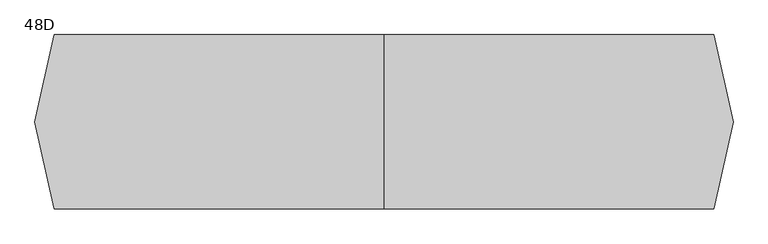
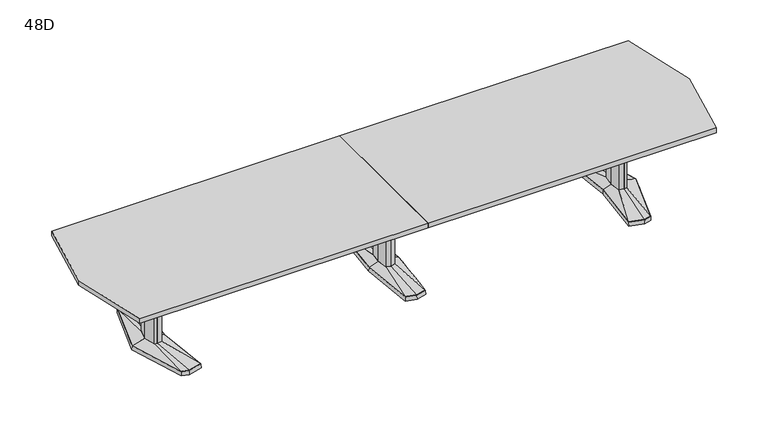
"""IFC4 building model written with IfcOpenShell, lengths in millimetres: furniture geometry, Coalesse_AM_Table_Conference_ETable2_Faceted_16ft_AluminiumBase : 48D."""

import ifcopenshell
import ifcopenshell.guid

model = None  # the IFC model being written
_history = None  # IfcOwnerHistory: only IFC2X3 demands one
_inside = {}  # id of a spatial element -> (the spatial element, [elements in it])
_under = {}  # id of a project, library or spatial element -> (it, [spatial elements below it])
_declared = {}  # id of a project -> (the project, [libraries it declares])
_typed = {}  # id of a type object -> (the type object, [elements of that type])
_made_of = {}  # id of a material, layer set ... -> (it, [elements and type objects made of it])


def new_model(schema):
    """Start an empty IFC model of exactly this schema.

    Asked for "IFC4X3", IfcOpenShell would pick the latest addendum, in which some entities
    have other attributes; the version numbers below select the first issue.
    IFC2X3 requires an IfcOwnerHistory on every rooted entity: one is made here for all.
    """
    global model, _history
    if schema == "IFC4X3":
        model = ifcopenshell.file(schema_version=(4, 3, 0, 0))
    else:
        model = ifcopenshell.file(schema=schema)
    _inside.clear()
    _under.clear()
    _declared.clear()
    _typed.clear()
    _made_of.clear()
    _history = None
    if model.schema == "IFC2X3":
        org = make("IfcOrganization", Name="unknown")
        user = make(
            "IfcPersonAndOrganization",
            ThePerson=make("IfcPerson", FamilyName="unknown"),
            TheOrganization=org,
        )
        app = make(
            "IfcApplication",
            ApplicationDeveloper=org,
            Version="unknown",
            ApplicationFullName="unknown",
            ApplicationIdentifier="unknown",
        )
        _history = make(
            "IfcOwnerHistory",
            OwningUser=user,
            OwningApplication=app,
            ChangeAction="ADDED",
            CreationDate=0,
        )
    return model


def make(cls, **values):
    """One entity of the class cls with the attributes given. An attribute that is None is left unset."""
    return model.create_entity(
        cls, **{name: value for name, value in values.items() if value is not None}
    )


def rooted(cls, **values):
    """An entity with a GlobalId (a new one), such as an element, a storey or a relation."""
    return make(cls, GlobalId=ifcopenshell.guid.new(), OwnerHistory=_history, **values)


def si_unit(unit_type, name, prefix=None):
    """IfcSIUnit, for example si_unit("LENGTHUNIT", "METRE", prefix="MILLI")."""
    return make("IfcSIUnit", UnitType=unit_type, Prefix=prefix, Name=name)


def assignment(units):
    """IfcUnitAssignment: the units of a project."""
    return None if units is None else make("IfcUnitAssignment", Units=units)


def point(xyz):
    """IfcCartesianPoint."""
    return None if xyz is None else make("IfcCartesianPoint", Coordinates=xyz)


def direction(xyz):
    """IfcDirection."""
    return None if xyz is None else make("IfcDirection", DirectionRatios=xyz)


def frame(location, z_axis=None, x_axis=None):
    """IfcAxis2Placement3D, a coordinate frame: its origin and axes. An axis left out is left unset."""
    return make(
        "IfcAxis2Placement3D",
        Location=point(location),
        Axis=direction(z_axis),
        RefDirection=direction(x_axis),
    )


def origin():
    """The frame at (0, 0, 0) with its axes left unset."""
    return frame((0.0, 0.0, 0.0))


def place(relative_to, where):
    """IfcLocalPlacement: puts the frame where relative to a parent placement (None: the world)."""
    return make(
        "IfcLocalPlacement", PlacementRelTo=relative_to, RelativePlacement=where
    )


def context(
    kind, dimensions, precision=None, world=None, true_north=None, identifier=None
):
    """IfcGeometricRepresentationContext, for example the 3D "Model" context."""
    return make(
        "IfcGeometricRepresentationContext",
        ContextIdentifier=identifier,
        ContextType=kind,
        CoordinateSpaceDimension=dimensions,
        Precision=precision,
        WorldCoordinateSystem=world,
        TrueNorth=true_north,
    )


def project(units=None, contexts=None):
    """IfcProject with its units and contexts."""
    return rooted(
        "IfcProject",
        Name="project",
        RepresentationContexts=contexts,
        UnitsInContext=assignment(units),
    )


def spatial(cls, under=None, at=None, **own):
    """A site, building, storey or space (cls), placed at a placement, below another one or the project."""
    s = rooted(cls, ObjectPlacement=at, **own)
    if under is not None:
        _under.setdefault(under.id(), (under, []))[1].append(s)
    return s


def polyline(points):
    """IfcPolyline through the points."""
    return make("IfcPolyline", Points=[point(p) for p in points])


def outline(outer, holes=None, kind="AREA"):
    """IfcArbitraryClosedProfileDef: a profile drawn as a closed curve; with holes, ...WithVoids."""
    if holes is None:
        return make("IfcArbitraryClosedProfileDef", ProfileType=kind, OuterCurve=outer)
    return make(
        "IfcArbitraryProfileDefWithVoids",
        ProfileType=kind,
        OuterCurve=outer,
        InnerCurves=holes,
    )


def extrude(swept, where, along, depth):
    """IfcExtrudedAreaSolid: the profile swept, set in the frame where, extruded along a direction by depth."""
    return make(
        "IfcExtrudedAreaSolid",
        SweptArea=swept,
        Position=where,
        ExtrudedDirection=direction(along),
        Depth=depth,
    )


def faces_of(points, faces, orient=None, outer=None):
    """IfcFace entities. A face is a list of loops; a loop is a list of indices into points, from 0.

    orient and outer hold one flag for each loop. By default every Orientation is true, the
    first loop of a face is its IfcFaceOuterBound and the others are IfcFaceBound.
    """
    made = []
    for i, loops in enumerate(faces):
        bounds = []
        for j, loop in enumerate(loops):
            is_outer = j == 0 if outer is None else outer[i][j]
            bounds.append(
                make(
                    "IfcFaceOuterBound" if is_outer else "IfcFaceBound",
                    Bound=make("IfcPolyLoop", Polygon=[points[k] for k in loop]),
                    Orientation=True if orient is None else orient[i][j],
                )
            )
        made.append(make("IfcFace", Bounds=bounds))
    return made


def faceted_brep(points, faces, orient=None, outer=None, voids=None):
    """IfcFacetedBrep: a solid bounded by flat faces; with voids (closed shells), ...WithVoids."""
    shared = [point(p) for p in points]
    hull = make("IfcClosedShell", CfsFaces=faces_of(shared, faces, orient, outer))
    if voids is None:
        return make("IfcFacetedBrep", Outer=hull)
    return make(
        "IfcFacetedBrepWithVoids",
        Outer=hull,
        Voids=[
            make(cls, CfsFaces=faces_of(shared, fs, o, b)) for cls, fs, o, b in voids
        ],
    )


def shape(context_of_items, identifier, shape_type, items):
    """IfcShapeRepresentation: the items that make up one representation, for example the "Body"."""
    return make(
        "IfcShapeRepresentation",
        ContextOfItems=context_of_items,
        RepresentationIdentifier=identifier,
        RepresentationType=shape_type,
        Items=items,
    )


def source(mapping_origin, context_of_items, identifier, shape_type, items):
    """IfcRepresentationMap: a shape defined once, which mapped items show again and again."""
    return make(
        "IfcRepresentationMap",
        MappingOrigin=mapping_origin,
        MappedRepresentation=shape(context_of_items, identifier, shape_type, items),
    )


def transform(
    local_origin,
    x_axis=None,
    y_axis=None,
    z_axis=None,
    scale=None,
    scale2=None,
    scale3=None,
    uniform=True,
):
    """IfcCartesianTransformationOperator3D, or its non-uniform kind. x_axis, y_axis, z_axis: its Axis1, 2, 3."""
    if uniform:
        return make(
            "IfcCartesianTransformationOperator3D",
            Axis1=direction(x_axis),
            Axis2=direction(y_axis),
            LocalOrigin=point(local_origin),
            Scale=scale,
            Axis3=direction(z_axis),
        )
    return make(
        "IfcCartesianTransformationOperator3DnonUniform",
        Axis1=direction(x_axis),
        Axis2=direction(y_axis),
        LocalOrigin=point(local_origin),
        Scale=scale,
        Axis3=direction(z_axis),
        Scale2=scale2,
        Scale3=scale3,
    )


def mapped(mapping_source, mapping_target):
    """IfcMappedItem: shows the shape of a source again, moved by a transform."""
    return make(
        "IfcMappedItem", MappingSource=mapping_source, MappingTarget=mapping_target
    )


def made_of(thing, what):
    """Note that an element or type object is made of a material, layer set ...; save() writes the relation."""
    if what is not None:
        _made_of.setdefault(what.id(), (what, []))[1].append(thing)
    return thing


def element(
    cls,
    number,
    at=None,
    inside=None,
    cuts=None,
    type_object=None,
    material=None,
    context=None,
    identifier="Body",
    shape_type=None,
    held_by="IfcProductDefinitionShape",
    body=None,
    shapes=None,
    **own,
):
    """One element of the class cls, such as IfcWall. Its Tag is "e" and its number.

    at: its placement. inside: the storey or other place that contains it. cuts: it is an
    opening in that element (IfcRelVoidsElement). A single representation is given by context,
    identifier, shape_type and body (its items); several are given by shapes. held_by: the class
    of the entity that holds the representations. save() writes the other relations.
    """
    e = rooted(cls, Tag="e%d" % number, ObjectPlacement=at, **own)
    if body is not None:
        shapes = [shape(context, identifier, shape_type, body)]
    if shapes is not None:
        e.Representation = make(held_by, Representations=shapes)
    if inside is not None:
        _inside.setdefault(inside.id(), (inside, []))[1].append(e)
    if cuts is not None:
        rooted(
            "IfcRelVoidsElement", RelatingBuildingElement=cuts, RelatedOpeningElement=e
        )
    if type_object is not None:
        _typed.setdefault(type_object.id(), (type_object, []))[1].append(e)
    return made_of(e, material)


def aggregate(whole, parts):
    """IfcRelAggregates: a whole, such as a stair, and the parts it consists of."""
    return rooted("IfcRelAggregates", RelatingObject=whole, RelatedObjects=parts)


def save(model, path):
    """Write the relations noted so far, then the file.

    IfcRelAggregates (storeys below a building ...), IfcRelContainedInSpatialStructure (elements
    in a storey), IfcRelDefinesByType, IfcRelAssociatesMaterial and IfcRelDeclares: one each for
    every whole, place, type object, material and project.
    """
    for whole, parts in _under.values():
        aggregate(whole, parts)
    for where, things in _inside.values():
        rooted(
            "IfcRelContainedInSpatialStructure",
            RelatedElements=things,
            RelatingStructure=where,
        )
    for kind, things in _typed.values():
        rooted("IfcRelDefinesByType", RelatedObjects=things, RelatingType=kind)
    for what, things in _made_of.values():
        rooted("IfcRelAssociatesMaterial", RelatedObjects=things, RelatingMaterial=what)
    for by, libraries in _declared.values():
        rooted("IfcRelDeclares", RelatingContext=by, RelatedDefinitions=libraries)
    model.write(path)


def plane_surface(at):
    """IfcPlane: the flat surface through the origin of the frame at, square to its z axis."""
    return make("IfcPlane", Position=at)


def spline_surface(u_degree, v_degree, points, u_multiplicities, v_multiplicities, u_knots, v_knots, weights=None):
    """IfcBSplineSurfaceWithKnots; with weights, IfcRationalBSplineSurfaceWithKnots. points: one row for each step in u."""
    own = dict(
        UDegree=u_degree,
        VDegree=v_degree,
        ControlPointsList=[[point(p) for p in row] for row in points],
        SurfaceForm="UNSPECIFIED",
        UClosed=False,
        VClosed=False,
        SelfIntersect=False,
        UMultiplicities=u_multiplicities,
        VMultiplicities=v_multiplicities,
        UKnots=u_knots,
        VKnots=v_knots,
        KnotSpec="UNSPECIFIED",
    )
    if weights is None:
        return make("IfcBSplineSurfaceWithKnots", **own)
    return make("IfcRationalBSplineSurfaceWithKnots", WeightsData=weights, **own)


def advanced_brep(points, edges, surfaces, faces):
    """IfcAdvancedBrep: a solid bounded by faces that lie on surfaces and meet in shared edges.

    An edge is (start, end): straight between two places in points (the first is 0);
    or (start, end, curve); or (start, end, curve, False) where it runs against its curve.
    A face is (place in surfaces, loops), or (place, loops, False) where it looks against
    its surface's normal. A loop lists edges by number (the first is 1), with a minus sign
    where the edge is run from its end to its start. The first loop is the outer one.
    """
    corners = [point(p) for p in points]
    vertices = [make("IfcVertexPoint", VertexGeometry=c) for c in corners]
    made = []
    for start, end, *more in edges:
        made.append(
            make(
                "IfcEdgeCurve",
                EdgeStart=vertices[start],
                EdgeEnd=vertices[end],
                EdgeGeometry=more[0] if more else make("IfcPolyline", Points=[corners[start], corners[end]]),
                SameSense=more[1] if len(more) > 1 else True,
            )
        )
    hull = []
    for where, loops, *sense in faces:
        bounds = []
        for j, loop in enumerate(loops):
            ring = [make("IfcOrientedEdge", EdgeElement=made[abs(k) - 1], Orientation=k > 0) for k in loop]
            bounds.append(
                make(
                    "IfcFaceOuterBound" if j == 0 else "IfcFaceBound",
                    Bound=make("IfcEdgeLoop", EdgeList=ring),
                    Orientation=True,
                )
            )
        hull.append(make("IfcAdvancedFace", Bounds=bounds, FaceSurface=surfaces[where], SameSense=sense[0] if sense else True))
    return make("IfcAdvancedBrep", Outer=make("IfcClosedShell", CfsFaces=hull))


def furniture_48d_5b8af901(model_context):
    return source(origin(), model_context, "Body", "SolidModel", [
        faceted_brep([(-81.2333791, -433.8053819, 38.1), (0.0, -455.556576, 38.1), (81.2333791, -433.8053819, 38.1), (119.0564774, 0.0, 38.1), (81.2333791, 433.8053819, 38.1), (0.0, 455.556576, 38.1), (-81.2333791, 433.8053819, 38.1), (-119.0564774, 0.0, 38.1), (-82.7182795, -435.0512063, 3.175), (-120.65, 0.0, 3.175), (-82.7182795, 435.0512063, 3.175), (0.0, 457.2, 3.175), (82.7182795, 435.0512063, 3.175), (120.65, 0.0, 3.175), (82.7182795, -435.0512063, 3.175), (0.0, -457.2, 3.175), (0.0, 429.2617927, 3.175), (-77.9676806, 408.3850278, 3.175), (-74.7019821, 382.9646737, 3.175), (0.0, 402.9670094, 3.175), (74.7019821, 382.9646737, 3.175), (77.9676806, 408.3850278, 3.175), (0.0, -429.2617927, 3.175), (77.9676806, -408.3850278, 3.175), (74.7019821, -382.9646737, 3.175), (0.0, -402.9670094, 3.175), (-74.7019821, -382.9646737, 3.175), (-77.9676806, -408.3850278, 3.175), (-71.8574262, 114.6326257, 3.175), (-82.5426076, 0.0, 3.175), (-71.8574262, -114.6326257, 3.175), (0.0, -133.8761372, 3.175), (71.8574262, -114.6326257, 3.175), (82.5426076, 0.0, 3.175), (71.8574262, 114.6326257, 3.175), (0.0, 133.8761372, 3.175), (0.0, 429.2617927, 0.0), (77.9676806, 408.3850278, 0.0), (74.7019821, 382.9646737, 0.0), (0.0, 402.9670094, 0.0), (-74.7019821, 382.9646737, 0.0), (-77.9676806, 408.3850278, 0.0), (0.0, -429.2617927, 0.0), (-77.9676806, -408.3850278, 0.0), (-74.7019821, -382.9646737, 0.0), (0.0, -402.9670094, 0.0), (74.7019821, -382.9646737, 0.0), (77.9676806, -408.3850278, 0.0), (-71.8574262, 114.6326257, 0.0), (0.0, 133.8761372, 0.0), (71.8574262, 114.6326257, 0.0), (82.5426076, 0.0, 0.0), (71.8574262, -114.6326257, 0.0), (0.0, -133.8761372, 0.0), (-71.8574262, -114.6326257, 0.0), (-82.5426076, 0.0, 0.0)], [[[0, 1, 2, 3, 4, 5, 6, 7]], [[8, 9, 10, 11, 12, 13, 14, 15], [16, 17, 18, 19, 20, 21], [22, 23, 24, 25, 26, 27], [28, 29, 30, 31, 32, 33, 34, 35]], [[1, 0, 8, 15]], [[2, 1, 15, 14]], [[3, 2, 14, 13]], [[4, 3, 13, 12]], [[5, 4, 12, 11]], [[6, 5, 11, 10]], [[7, 6, 10, 9]], [[0, 7, 9, 8]], [[36, 37, 38, 39, 40, 41]], [[42, 43, 44, 45, 46, 47]], [[48, 49, 50, 51, 52, 53, 54, 55]], [[36, 41, 17, 16]], [[41, 40, 18, 17]], [[40, 39, 19, 18]], [[39, 38, 20, 19]], [[38, 37, 21, 20]], [[37, 36, 16, 21]], [[42, 47, 23, 22]], [[47, 46, 24, 23]], [[46, 45, 25, 24]], [[45, 44, 26, 25]], [[44, 43, 27, 26]], [[43, 42, 22, 27]], [[48, 55, 29, 28]], [[55, 54, 30, 29]], [[54, 53, 31, 30]], [[53, 52, 32, 31]], [[52, 51, 33, 32]], [[51, 50, 34, 33]], [[50, 49, 35, 34]], [[49, 48, 28, 35]]]),
        faceted_brep([(-36.3832834, 84.6900825, 698.5), (-44.2774487, 0.0, 698.5), (-36.3832834, -84.6900825, 698.5), (0.0, -94.4335728, 698.5), (36.3832834, -84.6900825, 698.5), (44.2774487, 0.0, 698.5), (36.3832834, 84.6900825, 698.5), (0.0, 94.4335728, 698.5), (-36.3832834, 84.6900825, 63.5), (0.0, 94.4335728, 63.5), (36.3832834, 84.6900825, 63.5), (44.2774487, 0.0, 63.5), (36.3832834, -84.6900825, 63.5), (0.0, -94.4335728, 63.5), (-36.3832834, -84.6900825, 63.5), (-44.2774487, 0.0, 63.5)], [[[0, 1, 2, 3, 4, 5, 6, 7]], [[8, 9, 10, 11, 12, 13, 14, 15]], [[1, 0, 8, 15]], [[2, 1, 15, 14]], [[3, 2, 14, 13]], [[4, 3, 13, 12]], [[5, 4, 12, 11]], [[6, 5, 11, 10]], [[7, 6, 10, 9]], [[0, 7, 9, 8]]]),
        advanced_brep(
        [(-36.3832834, 84.6900825, 63.5), (-44.2774487, 0.0, 63.5), (-36.3832834, -84.6900825, 63.5), (0.0, -94.4335728, 63.5), (36.3832834, -84.6900825, 63.5), (44.2774487, 0.0, 63.5), (36.3832834, 84.6900825, 63.5), (0.0, 94.4335728, 63.5), (-81.2333791, 433.8053819, 38.1), (0.0, 455.556576, 38.1), (81.2333791, 433.8053819, 38.1), (119.0564774, 0.0, 38.1), (81.2333791, -433.8053819, 38.1), (0.0, -455.556576, 38.1), (-81.2333791, -433.8053819, 38.1), (-119.0564774, 0.0, 38.1)],
        [
            (0, 1),
            (1, 2),
            (2, 3),
            (3, 4),
            (4, 5),
            (5, 6),
            (6, 7),
            (7, 0),
            (8, 9),
            (9, 10),
            (10, 11),
            (11, 12),
            (12, 13),
            (13, 14),
            (14, 15),
            (15, 8),
            (15, 1),
            (0, 8),
            (14, 2),
            (13, 3),
            (12, 4),
            (11, 5),
            (10, 6),
            (9, 7),
        ],
        [
            plane_surface(frame((0.0, 0.0, 63.5), z_axis=(0.0, 0.0, 1.0000000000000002), x_axis=(-0.9659615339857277, -0.25868574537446, 0.0))),
            plane_surface(frame((0.0, 0.0, 38.1), z_axis=(0.0, 0.0, -1.0000000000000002), x_axis=(-0.9659615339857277, -0.25868574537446, 0.0))),
            spline_surface(1, 1, [[(-81.2333791, 433.8053819, 38.1), (-36.3832834, 84.6900825, 63.5)], [(-119.0564774, 0.0, 38.1), (-44.2774487, 0.0, 63.5)]], [2, 2], [2, 2], [0.0, 1.0], [0.0, 1.0]),
            spline_surface(1, 1, [[(-119.0564774, 0.0, 38.1), (-44.2774487, 0.0, 63.5)], [(-81.2333791, -433.8053819, 38.1), (-36.3832834, -84.6900825, 63.5)]], [2, 2], [2, 2], [0.0, 1.0], [0.0, 1.0]),
            spline_surface(1, 1, [[(-81.2333791, -433.8053819, 38.1), (-36.3832834, -84.6900825, 63.5)], [(0.0, -455.556576, 38.1), (0.0, -94.4335728, 63.5)]], [2, 2], [2, 2], [0.0, 1.0], [0.0, 1.0]),
            spline_surface(1, 1, [[(0.0, -455.556576, 38.1), (0.0, -94.4335728, 63.5)], [(81.2333791, -433.8053819, 38.1), (36.3832834, -84.6900825, 63.5)]], [2, 2], [2, 2], [0.0, 1.0], [0.0, 1.0]),
            spline_surface(1, 1, [[(81.2333791, -433.8053819, 38.1), (36.3832834, -84.6900825, 63.5)], [(119.0564774, 0.0, 38.1), (44.2774487, 0.0, 63.5)]], [2, 2], [2, 2], [0.0, 1.0], [0.0, 1.0]),
            spline_surface(1, 1, [[(119.0564774, 0.0, 38.1), (44.2774487, 0.0, 63.5)], [(81.2333791, 433.8053819, 38.1), (36.3832834, 84.6900825, 63.5)]], [2, 2], [2, 2], [0.0, 1.0], [0.0, 1.0]),
            spline_surface(1, 1, [[(81.2333791, 433.8053819, 38.1), (36.3832834, 84.6900825, 63.5)], [(0.0, 455.556576, 38.1), (0.0, 94.4335728, 63.5)]], [2, 2], [2, 2], [0.0, 1.0], [0.0, 1.0]),
            spline_surface(1, 1, [[(0.0, 455.556576, 38.1), (0.0, 94.4335728, 63.5)], [(-81.2333791, 433.8053819, 38.1), (-36.3832834, 84.6900825, 63.5)]], [2, 2], [2, 2], [0.0, 1.0], [0.0, 1.0]),
        ],
        [
            (0, [[1, 2, 3, 4, 5, 6, 7, 8]]),
            (1, [[9, 10, 11, 12, 13, 14, 15, 16]]),
            (2, [[-16, 17, -1, 18]]),
            (3, [[-15, 19, -2, -17]]),
            (4, [[-14, 20, -3, -19]]),
            (5, [[-13, 21, -4, -20]]),
            (6, [[-12, 22, -5, -21]]),
            (7, [[-11, 23, -6, -22]]),
            (8, [[-10, 24, -7, -23]]),
            (9, [[-9, -18, -8, -24]]),
        ],
    ),
        faceted_brep([(1820.2306835, 455.5848221, 38.1), (1710.6531277, 426.2263816, 38.1), (1751.8163717, 0.0, 38.1), (1710.6531277, -426.2263816, 38.1), (1820.2306835, -455.5848221, 38.1), (1876.3570396, -440.5478297, 38.1), (2013.6684269, 0.0, 38.1), (1876.3570396, 440.5478297, 38.1), (1820.2306754, 457.2283104, 3.175), (1877.6124472, 441.8549756, 3.175), (2015.33125, 0.0, 3.175), (1877.6124472, -441.8549756, 3.175), (1820.2306754, -457.2283104, 3.175), (1708.94375, -427.4118891, 3.175), (1750.2214856, 0.0, 3.175), (1708.94375, 427.4118891, 3.175), (1823.820115, 428.3273875, 3.175), (1718.7718228, 402.1057253, 3.175), (1726.890518, 377.985069, 3.175), (1827.4095466, 401.0699529, 3.175), (1877.9691725, 387.524361, 3.175), (1877.1631061, 414.0360954, 3.175), (1823.820115, -428.3273875, 3.175), (1877.1631061, -414.0360954, 3.175), (1877.9691725, -387.524361, 3.175), (1827.4095466, -401.0699529, 3.175), (1726.890518, -377.985069, 3.175), (1718.7718228, -402.1057253, 3.175), (1950.4153621, 0.0, 3.175), (1918.1459611, 120.4193755, 3.175), (1869.4987222, 133.471665, 3.175), (1789.6180526, 119.4176561, 3.175), (1778.4868466, 0.0, 3.175), (1789.6180526, -119.4176561, 3.175), (1869.4987222, -133.471665, 3.175), (1918.1459611, -120.4193755, 3.175), (1823.820115, 428.3273875, 0.0), (1877.1631061, 414.0360954, 0.0), (1877.9691725, 387.524361, 0.0), (1827.4095466, 401.0699529, 0.0), (1726.890518, 377.985069, 0.0), (1718.7718228, 402.1057253, 0.0), (1823.820115, -428.3273875, 0.0), (1718.7718228, -402.1057253, 0.0), (1726.890518, -377.985069, 0.0), (1827.4095466, -401.0699529, 0.0), (1877.9691725, -387.524361, 0.0), (1877.1631061, -414.0360954, 0.0), (1950.4153621, 0.0, 0.0), (1918.1459611, -120.4193755, 0.0), (1869.4987222, -133.471665, 0.0), (1789.6180526, -119.4176561, 0.0), (1778.4868466, 0.0, 0.0), (1789.6180526, 119.4176561, 0.0), (1869.4987222, 133.471665, 0.0), (1918.1459611, 120.4193755, 0.0)], [[[0, 1, 2, 3, 4, 5, 6, 7]], [[8, 9, 10, 11, 12, 13, 14, 15], [16, 17, 18, 19, 20, 21], [22, 23, 24, 25, 26, 27], [28, 29, 30, 31, 32, 33, 34, 35]], [[7, 9, 8, 0]], [[6, 10, 9, 7]], [[5, 11, 10, 6]], [[4, 12, 11, 5]], [[3, 13, 12, 4]], [[2, 14, 13, 3]], [[1, 15, 14, 2]], [[0, 8, 15, 1]], [[36, 37, 38, 39, 40, 41]], [[42, 43, 44, 45, 46, 47]], [[48, 49, 50, 51, 52, 53, 54, 55]], [[36, 16, 21, 37]], [[37, 21, 20, 38]], [[38, 20, 19, 39]], [[39, 19, 18, 40]], [[40, 18, 17, 41]], [[41, 17, 16, 36]], [[42, 22, 27, 43]], [[43, 27, 26, 44]], [[44, 26, 25, 45]], [[45, 25, 24, 46]], [[46, 24, 23, 47]], [[47, 23, 22, 42]], [[48, 28, 35, 49]], [[49, 35, 34, 50]], [[50, 34, 33, 51]], [[51, 33, 32, 52]], [[52, 32, 31, 53]], [[53, 31, 30, 54]], [[54, 30, 29, 55]], [[55, 29, 28, 48]]]),
        faceted_brep([(1910.9710836, 0.0, 698.5), (1887.0358546, 89.3188359, 698.5), (1870.1824984, 93.8406728, 698.5), (1867.7826511, 94.4845635, 698.5), (1824.855146, 86.9320037, 698.5), (1816.7520056, 0.0, 698.5), (1824.855146, -86.9320037, 698.5), (1867.7826511, -94.4845635, 698.5), (1870.1824984, -93.8406728, 698.5), (1887.0358546, -89.3188359, 698.5), (1910.9710836, 0.0, 63.5), (1887.0358546, -89.3188359, 63.5), (1870.1824984, -93.8406728, 63.5), (1867.7826511, -94.4845635, 63.5), (1824.855146, -86.9320037, 63.5), (1816.7520056, 0.0, 63.5), (1824.855146, 86.9320037, 63.5), (1867.7826511, 94.4845635, 63.5), (1870.1824984, 93.8406728, 63.5), (1887.0358546, 89.3188359, 63.5)], [[[0, 1, 2, 3, 4, 5, 6, 7, 8, 9]], [[10, 11, 12, 13, 14, 15, 16, 17, 18, 19]], [[9, 11, 10, 0]], [[8, 12, 11, 9]], [[7, 13, 12, 8]], [[6, 14, 13, 7]], [[5, 15, 14, 6]], [[4, 16, 15, 5]], [[3, 17, 16, 4]], [[2, 18, 17, 3]], [[1, 19, 18, 2]], [[0, 10, 19, 1]]]),
        advanced_brep(
        [(1867.7826511, 94.4845635, 63.5), (1824.855146, 86.9320037, 63.5), (1816.7520056, 0.0, 63.5), (1824.855146, -86.9320037, 63.5), (1867.7826511, -94.4845635, 63.5), (1887.0358546, -89.3188359, 63.5), (1910.9710836, 0.0, 63.5), (1887.0358546, 89.3188359, 63.5), (1820.2306835, 455.5848221, 38.1), (1876.3570396, 440.5478297, 38.1), (2013.6684269, 0.0, 38.1), (1876.3570396, -440.5478297, 38.1), (1820.2306835, -455.5848221, 38.1), (1710.6531277, -426.2263816, 38.1), (1751.8163717, 0.0, 38.1), (1710.6531277, 426.2263816, 38.1)],
        [
            (0, 1),
            (1, 2),
            (2, 3),
            (3, 4),
            (4, 5),
            (5, 6),
            (6, 7),
            (7, 0),
            (8, 9),
            (9, 10),
            (10, 11),
            (11, 12),
            (12, 13),
            (13, 14),
            (14, 15),
            (15, 8),
            (8, 0),
            (7, 9),
            (6, 10),
            (5, 11),
            (4, 12),
            (3, 13),
            (2, 14),
            (1, 15),
        ],
        [
            plane_surface(frame((1860.8837991, 0.0, 63.5), z_axis=(0.0, 0.0, 1.0), x_axis=(-0.25884244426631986, -0.9659195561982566, 0.0))),
            plane_surface(frame((1822.4958125, 0.0, 38.1), z_axis=(0.0, 0.0, -1.0), x_axis=(-0.25884244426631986, -0.9659195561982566, 0.0))),
            spline_surface(1, 1, [[(1820.2306835, 455.5848221, 38.1), (1876.3570396, 440.5478297, 38.1)], [(1867.7826511, 94.4845635, 63.5), (1887.0358546, 89.3188359, 63.5)]], [2, 2], [2, 2], [0.0, 1.0], [0.0, 1.0]),
            spline_surface(1, 1, [[(1876.3570396, 440.5478297, 38.1), (2013.6684269, 0.0, 38.1)], [(1887.0358546, 89.3188359, 63.5), (1910.9710836, 0.0, 63.5)]], [2, 2], [2, 2], [0.0, 1.0], [0.0, 1.0]),
            spline_surface(1, 1, [[(2013.6684269, 0.0, 38.1), (1876.3570396, -440.5478297, 38.1)], [(1910.9710836, 0.0, 63.5), (1887.0358546, -89.3188359, 63.5)]], [2, 2], [2, 2], [0.0, 1.0], [0.0, 1.0]),
            spline_surface(1, 1, [[(1876.3570396, -440.5478297, 38.1), (1820.2306835, -455.5848221, 38.1)], [(1887.0358546, -89.3188359, 63.5), (1867.7826511, -94.4845635, 63.5)]], [2, 2], [2, 2], [0.0, 1.0], [0.0, 1.0]),
            spline_surface(1, 1, [[(1820.2306835, -455.5848221, 38.1), (1710.6531277, -426.2263816, 38.1)], [(1867.7826511, -94.4845635, 63.5), (1824.855146, -86.9320037, 63.5)]], [2, 2], [2, 2], [0.0, 1.0], [0.0, 1.0]),
            spline_surface(1, 1, [[(1710.6531277, -426.2263816, 38.1), (1751.8163717, 0.0, 38.1)], [(1824.855146, -86.9320037, 63.5), (1816.7520056, 0.0, 63.5)]], [2, 2], [2, 2], [0.0, 1.0], [0.0, 1.0]),
            spline_surface(1, 1, [[(1751.8163717, 0.0, 38.1), (1710.6531277, 426.2263816, 38.1)], [(1816.7520056, 0.0, 63.5), (1824.855146, 86.9320037, 63.5)]], [2, 2], [2, 2], [0.0, 1.0], [0.0, 1.0]),
            spline_surface(1, 1, [[(1710.6531277, 426.2263816, 38.1), (1820.2306835, 455.5848221, 38.1)], [(1824.855146, 86.9320037, 63.5), (1867.7826511, 94.4845635, 63.5)]], [2, 2], [2, 2], [0.0, 1.0], [0.0, 1.0]),
        ],
        [
            (0, [[1, 2, 3, 4, 5, 6, 7, 8]]),
            (1, [[9, 10, 11, 12, 13, 14, 15, 16]]),
            (2, [[17, -8, 18, -9]]),
            (3, [[-18, -7, 19, -10]]),
            (4, [[-19, -6, 20, -11]]),
            (5, [[-20, -5, 21, -12]]),
            (6, [[-21, -4, 22, -13]]),
            (7, [[-22, -3, 23, -14]]),
            (8, [[-23, -2, 24, -15]]),
            (9, [[-24, -1, -17, -16]]),
        ],
    ),
        faceted_brep([(-1820.2306835, 455.5848221, 38.1), (-1876.3570396, 440.5478297, 38.1), (-2013.6684269, 0.0, 38.1), (-1876.3570396, -440.5478297, 38.1), (-1820.2306835, -455.5848221, 38.1), (-1710.6531277, -426.2263816, 38.1), (-1751.8163717, 0.0, 38.1), (-1710.6531277, 426.2263816, 38.1), (-1820.2306754, 457.2283104, 3.175), (-1708.94375, 427.4118891, 3.175), (-1750.2214856, 0.0, 3.175), (-1708.94375, -427.4118891, 3.175), (-1820.2306754, -457.2283104, 3.175), (-1877.6124472, -441.8549756, 3.175), (-2015.33125, 0.0, 3.175), (-1877.6124472, 441.8549756, 3.175), (-1823.820115, 428.3273875, 3.175), (-1877.1631061, 414.0360954, 3.175), (-1877.9691725, 387.524361, 3.175), (-1827.4095466, 401.0699529, 3.175), (-1726.890518, 377.985069, 3.175), (-1718.7718228, 402.1057253, 3.175), (-1823.820115, -428.3273875, 3.175), (-1718.7718228, -402.1057253, 3.175), (-1726.890518, -377.985069, 3.175), (-1827.4095466, -401.0699529, 3.175), (-1877.9691725, -387.524361, 3.175), (-1877.1631061, -414.0360954, 3.175), (-1950.4153621, 0.0, 3.175), (-1918.1459611, -120.4193755, 3.175), (-1869.4987222, -133.471665, 3.175), (-1789.6180526, -119.4176561, 3.175), (-1778.4868466, 0.0, 3.175), (-1789.6180526, 119.4176561, 3.175), (-1869.4987222, 133.471665, 3.175), (-1918.1459611, 120.4193755, 3.175), (-1823.820115, 428.3273875, 0.0), (-1718.7718228, 402.1057253, 0.0), (-1726.890518, 377.985069, 0.0), (-1827.4095466, 401.0699529, 0.0), (-1877.9691725, 387.524361, 0.0), (-1877.1631061, 414.0360954, 0.0), (-1823.820115, -428.3273875, 0.0), (-1877.1631061, -414.0360954, 0.0), (-1877.9691725, -387.524361, 0.0), (-1827.4095466, -401.0699529, 0.0), (-1726.890518, -377.985069, 0.0), (-1718.7718228, -402.1057253, 0.0), (-1950.4153621, 0.0, 0.0), (-1918.1459611, 120.4193755, 0.0), (-1869.4987222, 133.471665, 0.0), (-1789.6180526, 119.4176561, 0.0), (-1778.4868466, 0.0, 0.0), (-1789.6180526, -119.4176561, 0.0), (-1869.4987222, -133.471665, 0.0), (-1918.1459611, -120.4193755, 0.0)], [[[0, 1, 2, 3, 4, 5, 6, 7]], [[8, 9, 10, 11, 12, 13, 14, 15], [16, 17, 18, 19, 20, 21], [22, 23, 24, 25, 26, 27], [28, 29, 30, 31, 32, 33, 34, 35]], [[1, 0, 8, 15]], [[2, 1, 15, 14]], [[3, 2, 14, 13]], [[4, 3, 13, 12]], [[5, 4, 12, 11]], [[6, 5, 11, 10]], [[7, 6, 10, 9]], [[0, 7, 9, 8]], [[36, 37, 38, 39, 40, 41]], [[42, 43, 44, 45, 46, 47]], [[48, 49, 50, 51, 52, 53, 54, 55]], [[36, 41, 17, 16]], [[41, 40, 18, 17]], [[40, 39, 19, 18]], [[39, 38, 20, 19]], [[38, 37, 21, 20]], [[37, 36, 16, 21]], [[42, 47, 23, 22]], [[47, 46, 24, 23]], [[46, 45, 25, 24]], [[45, 44, 26, 25]], [[44, 43, 27, 26]], [[43, 42, 22, 27]], [[48, 55, 29, 28]], [[55, 54, 30, 29]], [[54, 53, 31, 30]], [[53, 52, 32, 31]], [[52, 51, 33, 32]], [[51, 50, 34, 33]], [[50, 49, 35, 34]], [[49, 48, 28, 35]]]),
        faceted_brep([(-1910.9710836, 0.0, 698.5), (-1887.0358546, -89.3188359, 698.5), (-1870.1824984, -93.8406728, 698.5), (-1867.7826511, -94.4845635, 698.5), (-1824.855146, -86.9320037, 698.5), (-1816.7520056, 0.0, 698.5), (-1824.855146, 86.9320037, 698.5), (-1867.7826511, 94.4845635, 698.5), (-1870.1824984, 93.8406728, 698.5), (-1887.0358546, 89.3188359, 698.5), (-1910.9710836, 0.0, 63.5), (-1887.0358546, 89.3188359, 63.5), (-1870.1824984, 93.8406728, 63.5), (-1867.7826511, 94.4845635, 63.5), (-1824.855146, 86.9320037, 63.5), (-1816.7520056, 0.0, 63.5), (-1824.855146, -86.9320037, 63.5), (-1867.7826511, -94.4845635, 63.5), (-1870.1824984, -93.8406728, 63.5), (-1887.0358546, -89.3188359, 63.5)], [[[0, 1, 2, 3, 4, 5, 6, 7, 8, 9]], [[10, 11, 12, 13, 14, 15, 16, 17, 18, 19]], [[1, 0, 10, 19]], [[2, 1, 19, 18]], [[3, 2, 18, 17]], [[4, 3, 17, 16]], [[5, 4, 16, 15]], [[6, 5, 15, 14]], [[7, 6, 14, 13]], [[8, 7, 13, 12]], [[9, 8, 12, 11]], [[0, 9, 11, 10]]]),
        advanced_brep(
        [(-1867.7826511, 94.4845635, 63.5), (-1887.0358546, 89.3188359, 63.5), (-1910.9710836, 0.0, 63.5), (-1887.0358546, -89.3188359, 63.5), (-1867.7826511, -94.4845635, 63.5), (-1824.855146, -86.9320037, 63.5), (-1816.7520056, 0.0, 63.5), (-1824.855146, 86.9320037, 63.5), (-1820.2306835, 455.5848221, 38.1), (-1710.6531277, 426.2263816, 38.1), (-1751.8163717, 0.0, 38.1), (-1710.6531277, -426.2263816, 38.1), (-1820.2306835, -455.5848221, 38.1), (-1876.3570396, -440.5478297, 38.1), (-2013.6684269, 0.0, 38.1), (-1876.3570396, 440.5478297, 38.1)],
        [
            (0, 1),
            (1, 2),
            (2, 3),
            (3, 4),
            (4, 5),
            (5, 6),
            (6, 7),
            (7, 0),
            (8, 9),
            (9, 10),
            (10, 11),
            (11, 12),
            (12, 13),
            (13, 14),
            (14, 15),
            (15, 8),
            (15, 1),
            (0, 8),
            (14, 2),
            (13, 3),
            (12, 4),
            (11, 5),
            (10, 6),
            (9, 7),
        ],
        [
            plane_surface(frame((-1860.8837991, 0.0, 63.5), z_axis=(0.0, 0.0, 1.0), x_axis=(0.25884244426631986, -0.9659195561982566, 0.0))),
            plane_surface(frame((-1822.4958125, 0.0, 38.1), z_axis=(0.0, 0.0, -1.0), x_axis=(0.25884244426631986, -0.9659195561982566, 0.0))),
            spline_surface(1, 1, [[(-1820.2306835, 455.5848221, 38.1), (-1867.7826511, 94.4845635, 63.5)], [(-1876.3570396, 440.5478297, 38.1), (-1887.0358546, 89.3188359, 63.5)]], [2, 2], [2, 2], [0.0, 1.0], [0.0, 1.0]),
            spline_surface(1, 1, [[(-1876.3570396, 440.5478297, 38.1), (-1887.0358546, 89.3188359, 63.5)], [(-2013.6684269, 0.0, 38.1), (-1910.9710836, 0.0, 63.5)]], [2, 2], [2, 2], [0.0, 1.0], [0.0, 1.0]),
            spline_surface(1, 1, [[(-2013.6684269, 0.0, 38.1), (-1910.9710836, 0.0, 63.5)], [(-1876.3570396, -440.5478297, 38.1), (-1887.0358546, -89.3188359, 63.5)]], [2, 2], [2, 2], [0.0, 1.0], [0.0, 1.0]),
            spline_surface(1, 1, [[(-1876.3570396, -440.5478297, 38.1), (-1887.0358546, -89.3188359, 63.5)], [(-1820.2306835, -455.5848221, 38.1), (-1867.7826511, -94.4845635, 63.5)]], [2, 2], [2, 2], [0.0, 1.0], [0.0, 1.0]),
            spline_surface(1, 1, [[(-1820.2306835, -455.5848221, 38.1), (-1867.7826511, -94.4845635, 63.5)], [(-1710.6531277, -426.2263816, 38.1), (-1824.855146, -86.9320037, 63.5)]], [2, 2], [2, 2], [0.0, 1.0], [0.0, 1.0]),
            spline_surface(1, 1, [[(-1710.6531277, -426.2263816, 38.1), (-1824.855146, -86.9320037, 63.5)], [(-1751.8163717, 0.0, 38.1), (-1816.7520056, 0.0, 63.5)]], [2, 2], [2, 2], [0.0, 1.0], [0.0, 1.0]),
            spline_surface(1, 1, [[(-1751.8163717, 0.0, 38.1), (-1816.7520056, 0.0, 63.5)], [(-1710.6531277, 426.2263816, 38.1), (-1824.855146, 86.9320037, 63.5)]], [2, 2], [2, 2], [0.0, 1.0], [0.0, 1.0]),
            spline_surface(1, 1, [[(-1710.6531277, 426.2263816, 38.1), (-1824.855146, 86.9320037, 63.5)], [(-1820.2306835, 455.5848221, 38.1), (-1867.7826511, 94.4845635, 63.5)]], [2, 2], [2, 2], [0.0, 1.0], [0.0, 1.0]),
        ],
        [
            (0, [[1, 2, 3, 4, 5, 6, 7, 8]]),
            (1, [[9, 10, 11, 12, 13, 14, 15, 16]]),
            (2, [[-16, 17, -1, 18]]),
            (3, [[-15, 19, -2, -17]]),
            (4, [[-14, 20, -3, -19]]),
            (5, [[-13, 21, -4, -20]]),
            (6, [[-12, 22, -5, -21]]),
            (7, [[-11, 23, -6, -22]]),
            (8, [[-10, 24, -7, -23]]),
            (9, [[-9, -18, -8, -24]]),
        ],
    ),
        extrude(outline(polyline([(96.8375, 698.5), (103.1875, 698.5), (103.1875, 476.25), (-103.1875, 476.25), (-103.1875, 698.5), (-96.8375, 698.5), (-96.8375, 482.6), (96.8375, 482.6), (96.8375, 698.5)])), frame((44.2774487, 0.0, 0.0), z_axis=(1.0, 0.0, 0.0), x_axis=(0.0, 1.0, 0.0)), (0.0, 0.0, 1.0), 1772.6163013),
        extrude(outline(polyline([(2303.2541794, 609.6), (2438.4, 0.0), (2303.2541794, -609.6), (0.0, -609.6), (0.0, 609.6), (2303.2541794, 609.6)])), frame((0.0, 0.0, 698.5), z_axis=(0.0, 0.0, 1.0), x_axis=(1.0, 0.0, 0.0)), (0.0, 0.0, 1.0), 38.1),
        extrude(outline(polyline([(0.0, 609.6), (0.0, -609.6), (-2303.2541794, -609.6), (-2438.4, 0.0), (-2303.2541794, 609.6), (0.0, 609.6)])), frame((0.0, 0.0, 698.5), z_axis=(0.0, 0.0, 1.0), x_axis=(1.0, 0.0, 0.0)), (0.0, 0.0, 1.0), 38.1),
        extrude(outline(polyline([(96.8375, 698.5), (103.1875, 698.5), (103.1875, 476.25), (-103.1875, 476.25), (-103.1875, 698.5), (-96.8375, 698.5), (-96.8375, 482.6), (96.8375, 482.6), (96.8375, 698.5)])), frame((-1816.89375, 0.0, 0.0), z_axis=(1.0, 0.0, 0.0), x_axis=(0.0, 1.0, 0.0)), (0.0, 0.0, 1.0), 1772.6163013),
    ])


if __name__ == "__main__":
    model = new_model("IFC4")
    model_context = context("Model", 3, world=origin())
    ifc_project = project(units=[si_unit("LENGTHUNIT", "METRE", prefix="MILLI")], contexts=[model_context])
    site = spatial("IfcSite", under=ifc_project)
    building = spatial("IfcBuilding", under=site)
    placement = place(None, origin())
    furniture_48d_shape = furniture_48d_5b8af901(model_context)
    element("IfcFurniture", 1, ObjectType="Coalesse_AM_Table_Conference_ETable2_Faceted_16ft_AluminiumBase : 48D", at=placement, inside=building, context=model_context, shape_type="MappedRepresentation", body=[
        mapped(furniture_48d_shape, transform((0.0, 0.0, 0.0), x_axis=(1.0, 0.0, 0.0), y_axis=(0.0, 1.0, 0.0), z_axis=(0.0, 0.0, 1.0))),
    ])
    save(model, "model.ifc")
